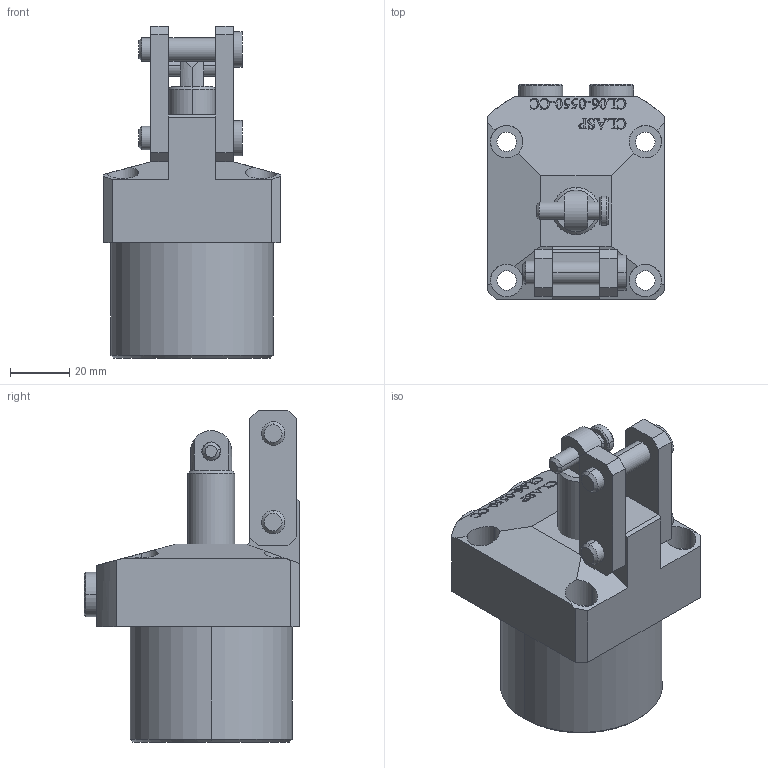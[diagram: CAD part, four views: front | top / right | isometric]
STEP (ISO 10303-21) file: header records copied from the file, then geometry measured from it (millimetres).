
FILE_DESCRIPTION (( 'STEP AP203' ), '1' );
FILE_NAME ('CL06-0550-CC .STEP', '2022-07-17T16:23:52', ( '' ), ( '' ), 'SwSTEP 2.0', 'SolidWorks 2017', '' );
FILE_SCHEMA (( 'CONFIG_CONTROL_DESIGN' ));
Length unit declared in the file: millimetre
Products named in the file (7): CL06.-0550 CC Body; CLO6-0550 Part3 cc; CLO6-0550 Part2 cc; CLO6-0550 Part6 cc; CLO6-0550 Part7 cc; CL06-055 Part5 cc; CL06-0550-CC 
Assembly tree (9 placements, depth 2):
  CL06-0550-CC 
    CL06.-0550 CC Body
    CLO6-0550 Part3 cc
    CLO6-0550 Part2 cc  x2
    CLO6-0550 Part6 cc  x2
    CLO6-0550 Part7 cc
    CL06-055 Part5 cc  x2
Bounding box: 60 x 73 x 112.5 mm (x, y, z)
Volume: 213659.1 mm3; surface area: 37063.2 mm2
Topology: 9 solids, 9 shells, 486 faces, 1260 edges, 826 vertices
Faces by surface type: plane 198, bspline 185, cylinder 73, cone 30
Entity records: 22054 total; most frequent: CARTESIAN_POINT 11384, ORIENTED_EDGE 2344, DIRECTION 1464, EDGE_CURVE 1172, VERTEX_POINT 772, LINE 646, VECTOR 646, EDGE_LOOP 500
